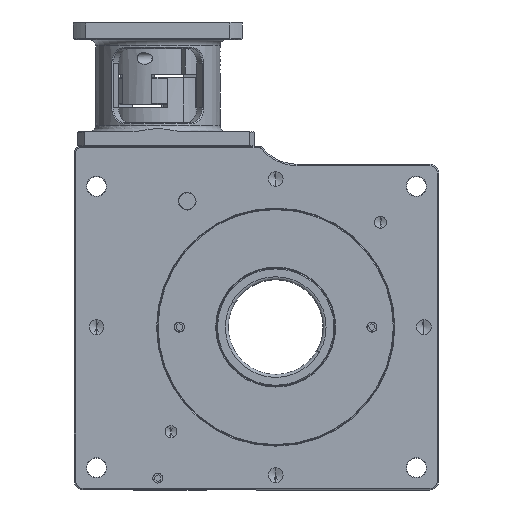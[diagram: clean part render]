
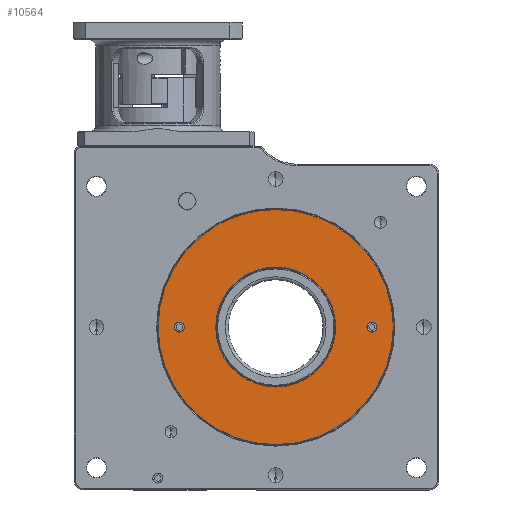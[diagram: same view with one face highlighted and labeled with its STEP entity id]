
A CAD part, front view. The second image highlights one B-rep face of the part: STEP entity #10564.
In plain terms, the highlighted planar face has unit normal (0, -1, 0).
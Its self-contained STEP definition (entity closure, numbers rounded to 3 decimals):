
#1397 = EDGE_CURVE ( 'NONE', #44081, #17077, #46860, .T. ) ;
#4371 = CARTESIAN_POINT ( 'NONE',  ( 32.5, 0.2, -1.65 ) ) ;
#5533 = DIRECTION ( 'NONE',  ( 0., -1., 0. ) ) ;
#6326 = ORIENTED_EDGE ( 'NONE', *, *, #58693, .F. ) ;
#6686 = DIRECTION ( 'NONE',  ( 0., -1., 0. ) ) ;
#7683 = CARTESIAN_POINT ( 'NONE',  ( 0., 0.2, 0. ) ) ;
#7912 = DIRECTION ( 'NONE',  ( 0., -1., 0. ) ) ;
#9697 = FACE_BOUND ( 'NONE', #19838, .T. ) ;
#10564 = ADVANCED_FACE ( 'NONE', ( #49153, #35476, #9697, #50801 ), #58122, .T. ) ;
#11502 = VERTEX_POINT ( 'NONE', #28275 ) ;
#11710 = VERTEX_POINT ( 'NONE', #66589 ) ;
#12852 = DIRECTION ( 'NONE',  ( 0., 0., -1. ) ) ;
#14182 = DIRECTION ( 'NONE',  ( 0., -1., 0. ) ) ;
#16732 = DIRECTION ( 'NONE',  ( 0., 1., 0. ) ) ;
#16885 = CARTESIAN_POINT ( 'NONE',  ( 26.05, 0.2, 0. ) ) ;
#17077 = VERTEX_POINT ( 'NONE', #37450 ) ;
#18853 = VERTEX_POINT ( 'NONE', #4371 ) ;
#19838 = EDGE_LOOP ( 'NONE', ( #33255, #66465 ) ) ;
#20362 = EDGE_CURVE ( 'NONE', #18853, #33011, #51819, .T. ) ;
#21287 = CARTESIAN_POINT ( 'NONE',  ( 0., 0.2, 20.25 ) ) ;
#23115 = EDGE_LOOP ( 'NONE', ( #6326, #27986 ) ) ;
#27499 = CARTESIAN_POINT ( 'NONE',  ( -32.5, 0.2, 0. ) ) ;
#27986 = ORIENTED_EDGE ( 'NONE', *, *, #1397, .F. ) ;
#28275 = CARTESIAN_POINT ( 'NONE',  ( 0., 0.2, -39.7 ) ) ;
#28351 = ORIENTED_EDGE ( 'NONE', *, *, #57200, .T. ) ;
#30592 = DIRECTION ( 'NONE',  ( 0., 1., 0. ) ) ;
#31140 = CARTESIAN_POINT ( 'NONE',  ( -32.5, 0.2, 1.65 ) ) ;
#32701 = DIRECTION ( 'NONE',  ( 0., 0., -1. ) ) ;
#32870 = DIRECTION ( 'NONE',  ( 0., 0., -1. ) ) ;
#33011 = VERTEX_POINT ( 'NONE', #36963 ) ;
#33027 = CIRCLE ( 'NONE', #36420, 20.25 ) ;
#33184 = ORIENTED_EDGE ( 'NONE', *, *, #51736, .T. ) ;
#33255 = ORIENTED_EDGE ( 'NONE', *, *, #41083, .T. ) ;
#35253 = CARTESIAN_POINT ( 'NONE',  ( 0., 0.2, -20.25 ) ) ;
#35476 = FACE_BOUND ( 'NONE', #62686, .T. ) ;
#36366 = CARTESIAN_POINT ( 'NONE',  ( -32.5, 0.2, 0. ) ) ;
#36420 = AXIS2_PLACEMENT_3D ( 'NONE', #47567, #16732, #52791 ) ;
#36963 = CARTESIAN_POINT ( 'NONE',  ( 32.5, 0.2, 1.65 ) ) ;
#37450 = CARTESIAN_POINT ( 'NONE',  ( -32.5, 0.2, -1.65 ) ) ;
#37549 = CARTESIAN_POINT ( 'NONE',  ( 0., 0.2, 0. ) ) ;
#38189 = AXIS2_PLACEMENT_3D ( 'NONE', #38757, #7912, #43942 ) ;
#38757 = CARTESIAN_POINT ( 'NONE',  ( 32.5, 0.2, 0. ) ) ;
#39309 = VERTEX_POINT ( 'NONE', #21287 ) ;
#39863 = AXIS2_PLACEMENT_3D ( 'NONE', #61471, #30592, #66673 ) ;
#41083 = EDGE_CURVE ( 'NONE', #45188, #39309, #33027, .T. ) ;
#41557 = DIRECTION ( 'NONE',  ( 0., 0., -1. ) ) ;
#41759 = AXIS2_PLACEMENT_3D ( 'NONE', #37549, #6686, #42724 ) ;
#42724 = DIRECTION ( 'NONE',  ( 0., 0., -1. ) ) ;
#42855 = ORIENTED_EDGE ( 'NONE', *, *, #20362, .F. ) ;
#43711 = DIRECTION ( 'NONE',  ( 0., -1., 0. ) ) ;
#43942 = DIRECTION ( 'NONE',  ( 0., 0., -1. ) ) ;
#44081 = VERTEX_POINT ( 'NONE', #31140 ) ;
#45042 = CARTESIAN_POINT ( 'NONE',  ( 32.5, 0.2, 0. ) ) ;
#45188 = VERTEX_POINT ( 'NONE', #35253 ) ;
#46785 = CIRCLE ( 'NONE', #39863, 20.25 ) ;
#46860 = CIRCLE ( 'NONE', #63552, 1.65 ) ;
#46980 = AXIS2_PLACEMENT_3D ( 'NONE', #45042, #14182, #50209 ) ;
#47567 = CARTESIAN_POINT ( 'NONE',  ( 0., 0.2, 0. ) ) ;
#48860 = EDGE_LOOP ( 'NONE', ( #28351, #33184 ) ) ;
#49153 = FACE_BOUND ( 'NONE', #23115, .T. ) ;
#49318 = AXIS2_PLACEMENT_3D ( 'NONE', #7683, #43711, #12852 ) ;
#50209 = DIRECTION ( 'NONE',  ( 0., 0., -1. ) ) ;
#50801 = FACE_OUTER_BOUND ( 'NONE', #48860, .T. ) ;
#51736 = EDGE_CURVE ( 'NONE', #11502, #11710, #56438, .T. ) ;
#51748 = AXIS2_PLACEMENT_3D ( 'NONE', #27499, #63591, #32701 ) ;
#51819 = CIRCLE ( 'NONE', #38189, 1.65 ) ;
#52459 = EDGE_CURVE ( 'NONE', #39309, #45188, #46785, .T. ) ;
#52791 = DIRECTION ( 'NONE',  ( 0., 0., -1. ) ) ;
#55214 = CIRCLE ( 'NONE', #51748, 1.65 ) ;
#55320 = ORIENTED_EDGE ( 'NONE', *, *, #58902, .F. ) ;
#56438 = CIRCLE ( 'NONE', #49318, 39.7 ) ;
#56859 = AXIS2_PLACEMENT_3D ( 'NONE', #16885, #63741, #32870 ) ;
#57200 = EDGE_CURVE ( 'NONE', #11710, #11502, #64213, .T. ) ;
#58122 = PLANE ( 'NONE',  #56859 ) ;
#58693 = EDGE_CURVE ( 'NONE', #17077, #44081, #55214, .T. ) ;
#58902 = EDGE_CURVE ( 'NONE', #33011, #18853, #64081, .T. ) ;
#61471 = CARTESIAN_POINT ( 'NONE',  ( 0., 0.2, 0. ) ) ;
#62686 = EDGE_LOOP ( 'NONE', ( #42855, #55320 ) ) ;
#63552 = AXIS2_PLACEMENT_3D ( 'NONE', #36366, #5533, #41557 ) ;
#63591 = DIRECTION ( 'NONE',  ( 0., -1., 0. ) ) ;
#63741 = DIRECTION ( 'NONE',  ( 0., -1., 0. ) ) ;
#64081 = CIRCLE ( 'NONE', #46980, 1.65 ) ;
#64213 = CIRCLE ( 'NONE', #41759, 39.7 ) ;
#66465 = ORIENTED_EDGE ( 'NONE', *, *, #52459, .T. ) ;
#66589 = CARTESIAN_POINT ( 'NONE',  ( 0., 0.2, 39.7 ) ) ;
#66673 = DIRECTION ( 'NONE',  ( 0., 0., -1. ) ) ;
